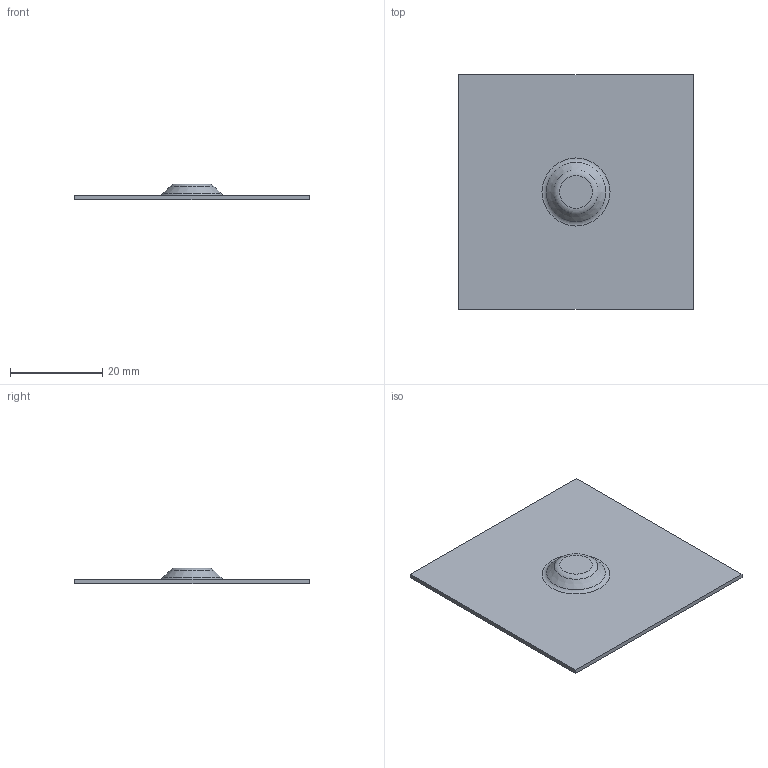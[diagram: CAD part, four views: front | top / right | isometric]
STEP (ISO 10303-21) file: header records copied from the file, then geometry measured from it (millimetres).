
FILE_DESCRIPTION((''),'1');
FILE_NAME('C:/Users/robertnolte/Desktop/WT#223-8391.stp','2012-03-29T19:44:14',(''),(''),'Spatial Interop R21 SP3','Kubotek KeyCreator 2011 V10.5.0 (24766)',' ');
FILE_SCHEMA(('CONFIG_CONTROL_DESIGN'));
Length unit declared in the file: inch
Products named in the file (1): 1
Bounding box: 50.8 x 50.8 x 3.45 mm (x, y, z)
Volume: 2387.8 mm3; surface area: 5408.5 mm2
Topology: 1 solids, 1 shells, 14 faces, 27 edges, 17 vertices
Faces by surface type: plane 8, torus 4, cone 2
Entity records: 360 total; most frequent: DIRECTION 58, CARTESIAN_POINT 51, ORIENTED_EDGE 40, AXIS2_PLACEMENT_3D 23, EDGE_LOOP 22, EDGE_CURVE 20, VERTEX_POINT 16, ADVANCED_FACE 14
